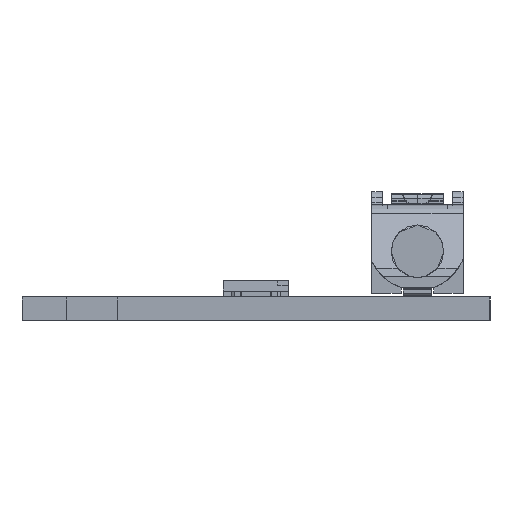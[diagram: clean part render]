
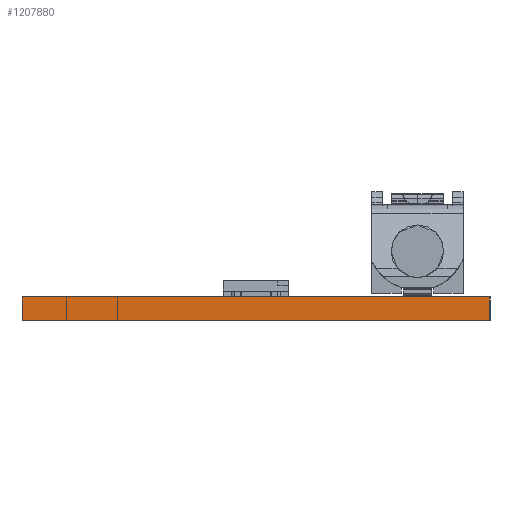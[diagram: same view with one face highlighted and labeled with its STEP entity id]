
A CAD part, left-side view. The second image highlights one B-rep face of the part: STEP entity #1207880.
In plain terms, the highlighted planar face has unit normal (-1, 0, 0).
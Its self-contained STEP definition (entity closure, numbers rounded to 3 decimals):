
#1194530=CARTESIAN_POINT('',(0.299,64.092,0.));
#1194540=DIRECTION('',(0.,-1.,0.));
#1194550=VECTOR('',#1194540,1.);
#1194560=LINE('',#1194530,#1194550);
#1194570=CARTESIAN_POINT('',(0.299,64.092,0.));
#1194580=VERTEX_POINT('',#1194570);
#1194590=CARTESIAN_POINT('',(0.299,44.092,0.));
#1194600=VERTEX_POINT('',#1194590);
#1194610=EDGE_CURVE('',#1194580,#1194600,#1194560,.T.);
#1207450=CARTESIAN_POINT('',(0.299,44.092,-1.));
#1207460=VERTEX_POINT('',#1207450);
#1207490=CARTESIAN_POINT('',(0.299,44.092,-1.));
#1207500=DIRECTION('',(0.,0.,1.));
#1207510=VECTOR('',#1207500,1.);
#1207520=LINE('',#1207490,#1207510);
#1207530=EDGE_CURVE('',#1207460,#1194600,#1207520,.T.);
#1207650=CARTESIAN_POINT('',(0.299,44.092,0.));
#1207660=DIRECTION('',(1.,0.,0.));
#1207670=DIRECTION('',(0.,-1.,0.));
#1207680=AXIS2_PLACEMENT_3D('',#1207650,#1207660,#1207670);
#1207690=PLANE('',#1207680);
#1207700=ORIENTED_EDGE('',*,*,#1194610,.F.);
#1207710=ORIENTED_EDGE('',*,*,#1207530,.T.);
#1207720=CARTESIAN_POINT('',(0.299,64.092,-1.));
#1207730=DIRECTION('',(0.,-1.,0.));
#1207740=VECTOR('',#1207730,1.);
#1207750=LINE('',#1207720,#1207740);
#1207760=CARTESIAN_POINT('',(0.299,64.092,-1.));
#1207770=VERTEX_POINT('',#1207760);
#1207780=EDGE_CURVE('',#1207770,#1207460,#1207750,.T.);
#1207790=ORIENTED_EDGE('',*,*,#1207780,.T.);
#1207800=CARTESIAN_POINT('',(0.299,64.092,-1.));
#1207810=DIRECTION('',(0.,0.,1.));
#1207820=VECTOR('',#1207810,1.);
#1207830=LINE('',#1207800,#1207820);
#1207840=EDGE_CURVE('',#1207770,#1194580,#1207830,.T.);
#1207850=ORIENTED_EDGE('',*,*,#1207840,.F.);
#1207860=EDGE_LOOP('',(#1207850,#1207790,#1207710,#1207700));
#1207870=FACE_OUTER_BOUND('',#1207860,.T.);
#1207880=ADVANCED_FACE('',(#1207870),#1207690,.F.);
